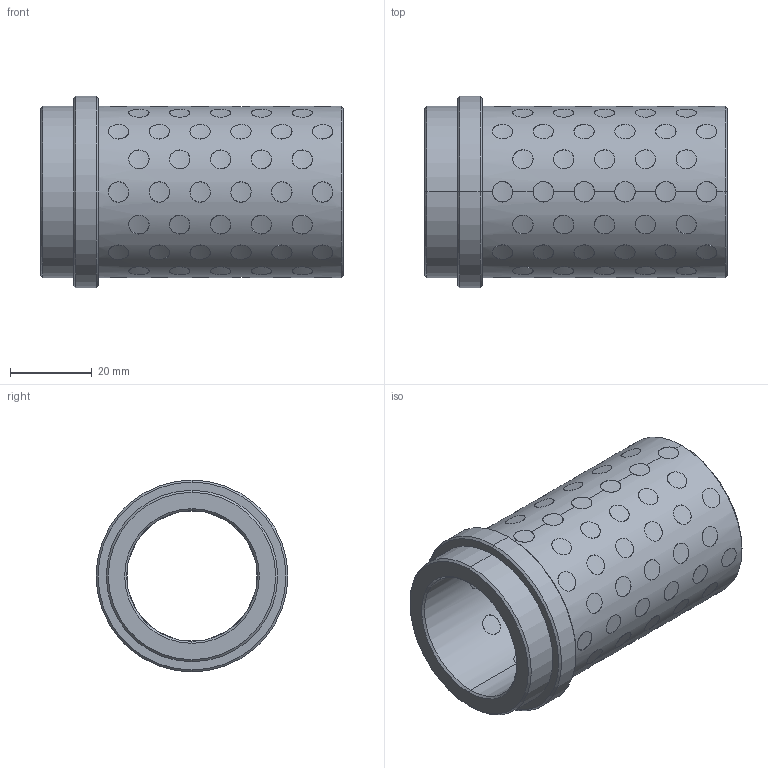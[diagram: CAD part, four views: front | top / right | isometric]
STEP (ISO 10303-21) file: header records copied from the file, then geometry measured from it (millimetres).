
FILE_DESCRIPTION((''),'2;1');
FILE_NAME('G31232066','2017-12-30T',('MANU'),(''),'PRO/ENGINEER BY PARAMETRIC TECHNOLOGY CORPORATION, 2012130','PRO/ENGINEER BY PARAMETRIC TECHNOLOGY CORPORATION, 2012130','');
FILE_SCHEMA(('CONFIG_CONTROL_DESIGN'));
Length unit declared in the file: millimetre
Products named in the file (1): G31232066
Bounding box: 74 x 47 x 47 mm (x, y, z)
Volume: 44837.9 mm3; surface area: 32684.5 mm2
Topology: 89 solids, 89 shells, 552 faces, 1176 edges, 780 vertices
Faces by surface type: cylinder 536, cone 12, plane 4
Entity records: 26742 total; most frequent: CARTESIAN_POINT 15984, ORIENTED_EDGE 2352, DIRECTION 1556, EDGE_CURVE 1176, VERTEX_POINT 780, B_SPLINE_CURVE_WITH_KNOTS 752, EDGE_LOOP 708, AXIS2_PLACEMENT_3D 580
